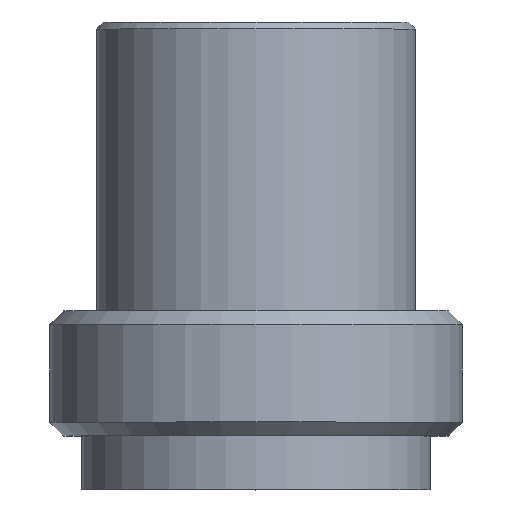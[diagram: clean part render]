
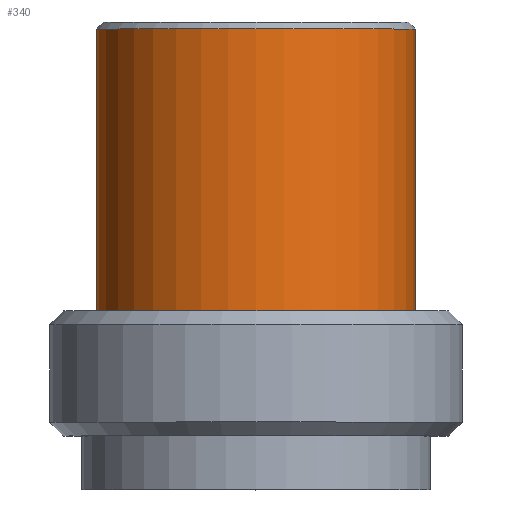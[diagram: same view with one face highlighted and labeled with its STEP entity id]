
A CAD part, top view. The second image highlights one B-rep face of the part: STEP entity #340.
In plain terms, the highlighted cylindrical face has radius 11.6 mm (diameter 23.2 mm), a full revolution.
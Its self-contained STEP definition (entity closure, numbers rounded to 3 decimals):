
#340=ADVANCED_FACE('', (#350,#360), #370, .T.);
#1420=AXIS2_PLACEMENT_3D('Ax2Pl3d', #1430, #1440, #1450);
#1460=AXIS2_PLACEMENT_3D('Ax2Pl3d', #1470, #1480, #1490);
#1500=AXIS2_PLACEMENT_3D('Ax2Pl3d', #1510, #1520, #1530);
#1430=CARTESIAN_POINT('HicPkt', (-8.156,-97.233,
56.098));
#1470=CARTESIAN_POINT('HicPkt', (-8.156,-76.733,
56.098));
#2770=CARTESIAN_POINT('', (3.444,-76.733,56.098));
#1510=CARTESIAN_POINT('HicPkt', (-8.156,-97.233,
56.098));
#2780=CARTESIAN_POINT('', (-8.156,-97.233,44.498))
;
#2960=CIRCLE('Circle', #1460, 11.6);
#2970=CIRCLE('Circle', #1500, 11.6);
#370=CYLINDRICAL_SURFACE('Zyl', #1420, 11.6);
#1440=DIRECTION('Axis', (0.,1.,0.));
#1450=DIRECTION('RefDirection', (0.,
0.,-1.));
#1480=DIRECTION('Axis', (0.,-1.,0.)
);
#1490=DIRECTION('RefDirection', (0.,
0.,-1.));
#1520=DIRECTION('Axis', (0.,1.,0.));
#1530=DIRECTION('RefDirection', (0.,
0.,-1.));
#4120=EDGE_CURVE('', #4130, #4130, #2960, .T.);
#4140=EDGE_CURVE('', #4150, #4150, #2970, .T.);
#4580=EDGE_LOOP('Edge_loop', (#4590));
#4600=EDGE_LOOP('Edge_loop', (#4610));
#360=FACE_BOUND('', #4600, .T.);
#350=FACE_OUTER_BOUND('Face_outer_bound', #4580, .T.);
#4590=ORIENTED_EDGE('', *, *, #4120, .T.);
#4610=ORIENTED_EDGE('', *, *, #4140, .T.);
#4130=VERTEX_POINT('', #2770);
#4150=VERTEX_POINT('', #2780);
